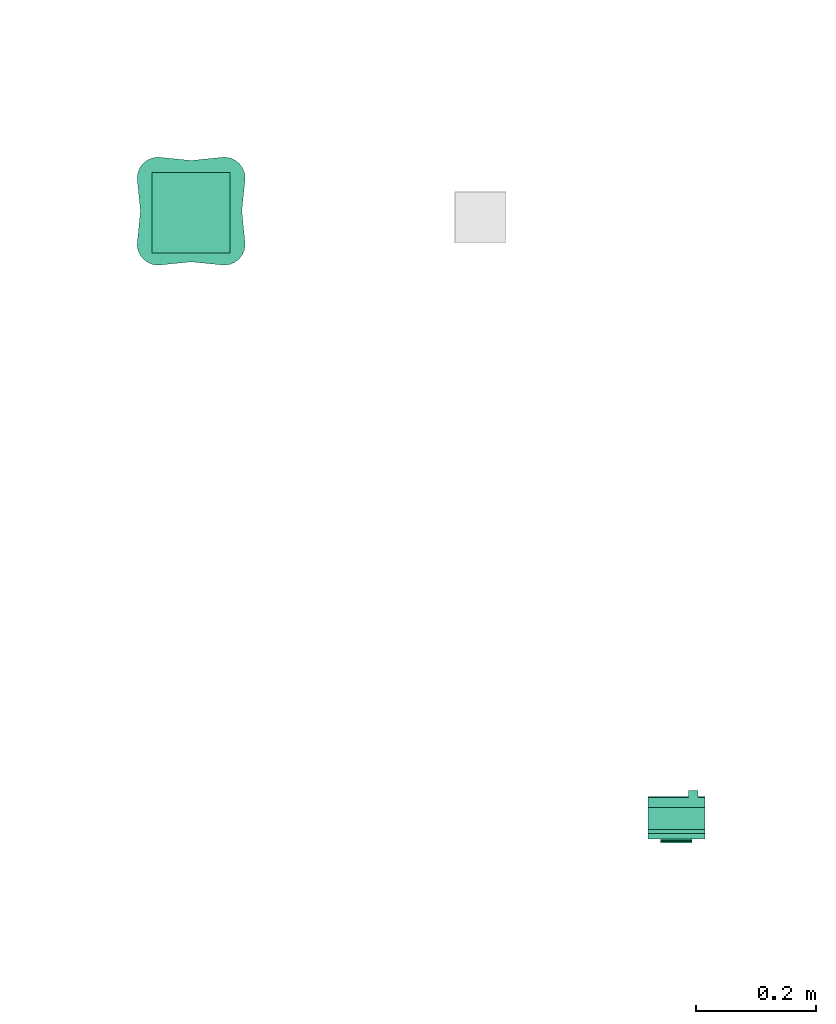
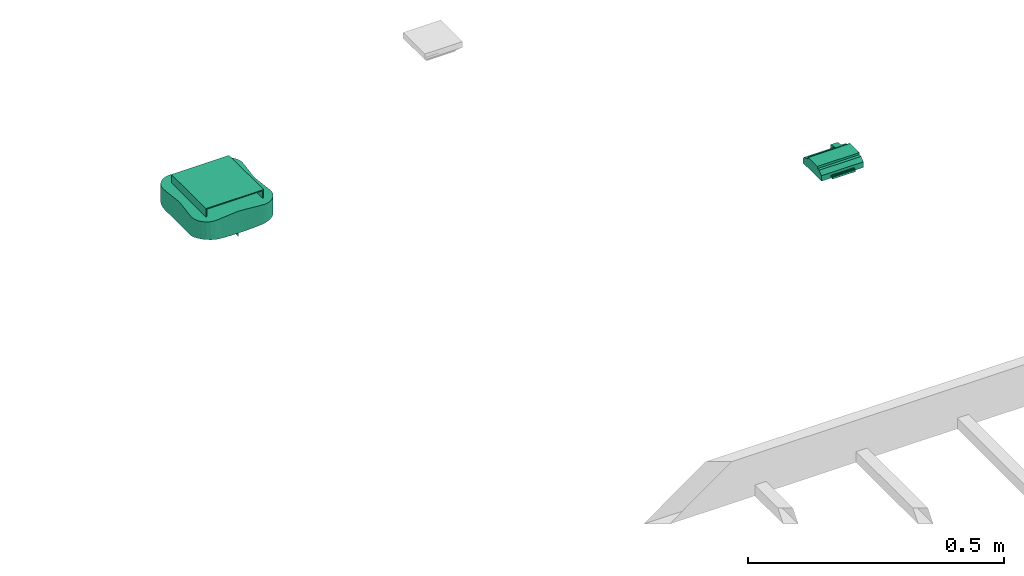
# One storey, part 23 of 24: 1 distribution control element, 1 flow terminal.
"""IFC2X3 building model written with IfcOpenShell, lengths in millimetres."""

from ifc_helpers import new_model, entity, si_unit, converted_unit, derived_unit, direction, frame, origin_with_axes, place, context, subcontext, project, spatial, open_shell, surface_model, source, transform, mapped, type_object, element, save


model = new_model("IFC2X3")

# Units and contexts
model_context = context("Model", 3, precision=0.01, world=frame((0.0, 4.29681676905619e-09, 0.0)), true_north=direction((4.01073788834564e-13, 1.0)))
plan_context = context("Plan", 3, precision=0.01, world=frame((0.0, 4.29681676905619e-09, 0.0)), true_north=direction((4.01073788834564e-13, 1.0)))
body_context = subcontext(model_context, "Body", "Model", "MODEL_VIEW")
ifc_project = project(units=[converted_unit("PLANEANGLEUNIT", "DEGREE", entity("IfcPositiveLengthMeasure", 0.0174532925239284), si_unit("PLANEANGLEUNIT", "RADIAN"), dimensions=[0, 0, 0, 0, 0, 0, 0]), si_unit("AREAUNIT", "SQUARE_METRE"), si_unit("LENGTHUNIT", "METRE", prefix="MILLI"), si_unit("MASSUNIT", "GRAM", prefix="KILO"), si_unit("POWERUNIT", "WATT"), si_unit("PRESSUREUNIT", "PASCAL"), si_unit("FORCEUNIT", "NEWTON", prefix="KILO"), si_unit("ELECTRICVOLTAGEUNIT", "VOLT"), si_unit("ELECTRICCURRENTUNIT", "AMPERE"), si_unit("THERMODYNAMICTEMPERATUREUNIT", "DEGREE_CELSIUS"), si_unit("TIMEUNIT", "SECOND"), si_unit("VOLUMEUNIT", "CUBIC_METRE"), derived_unit("LINEARVELOCITYUNIT", [(si_unit("LENGTHUNIT", "METRE"), 1), (si_unit("TIMEUNIT", "SECOND"), -1)]), derived_unit("VOLUMETRICFLOWRATEUNIT", [(si_unit("VOLUMEUNIT", "CUBIC_METRE"), 1), (si_unit("TIMEUNIT", "SECOND"), -1)]), derived_unit("THERMALTRANSMITTANCEUNIT", [(si_unit("POWERUNIT", "WATT"), 1), (si_unit("THERMODYNAMICTEMPERATUREUNIT", "KELVIN"), -1), (si_unit("AREAUNIT", "SQUARE_METRE"), -1)]), derived_unit("SOUNDPRESSUREUNIT", [(si_unit("PRESSUREUNIT", "PASCAL"), 1)])], contexts=[model_context, plan_context])

# Site, building, storey
site_placement = place(None, frame((0.0, -4.29681676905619e-09, 0.0), z_axis=(0.0, 0.0, 1.0), x_axis=(1.0, 0.0, 0.0)))
site = spatial("IfcSite", under=ifc_project, at=site_placement, Name="ENGM", CompositionType="ELEMENT")
building_placement = place(site_placement, frame((0.0, 4.29681676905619e-09, 0.0), z_axis=(0.0, 0.0, 1.0), x_axis=(1.0, 0.0, 0.0)))
building = spatial("IfcBuilding", under=site, at=building_placement, Name="TH", CompositionType="ELEMENT")
storey_placement = place(building_placement, frame((0.0, 0.0, 210200.0), z_axis=(0.0, 0.0, 1.0), x_axis=(1.0, 0.0, 0.0)))
storey = spatial("IfcBuildingStorey", under=building, at=storey_placement, Name="Nivå F - 0,7 m", CompositionType="ELEMENT", Elevation=210200.0)

# Distribution control element
alarm_type = type_object("IfcAlarmType", Name="BUS Binærutgang 4-kanals", PredefinedType="NOTDEFINED")
shared_shape_1 = source(origin_with_axes(), body_context, "Body", "SurfaceModel", [
    surface_model("IfcShellBasedSurfaceModel", [(-20.08735, -24.86484, 47.89005), (-20.08735, -24.86484, 35.22092), (-20.08735, -4.86484, 35.22092), (-20.08735, -4.86484, 51.77765), (-35.68684, -4.86484, 51.77765), (-35.68684, -4.86484, 35.22092), (-35.68684, -24.86484, 47.89005), (-35.68684, -24.86484, 35.22092), (26.37204, 55.71825, 33.88462), (26.37204, 62.14116, 33.88462), (26.37204, 60.08261, 38.88462), (26.37204, 62.14116, 38.88462), (26.37204, 58.20707, 39.7592), (26.37204, 55.71825, 39.7592), (-25.8633, 55.71825, 33.88462), (-25.8633, 55.71825, 39.7592), (-25.8633, 58.20707, 39.7592), (-25.8633, 60.08261, 38.88462), (-25.8633, 62.14116, 33.88462), (-25.8633, 62.14116, 38.88462), (47.54214, -15.24, 45.29966), (47.54214, -15.24, 32.67625), (47.54214, -13.27537, 48.10544), (47.54214, 3.04066, 54.04399), (47.54214, 3.04066, 58.59394), (47.54214, 40.13549, 58.59394), (47.54214, 55.71825, 32.67625), (47.54214, 55.71825, 45.82808), (47.54214, 40.13549, 53.59394), (47.54214, 46.78465, 53.59394), (-47.35135, 55.71825, 45.82808), (-47.35135, 55.71825, 32.67625), (-47.35135, 40.13549, 53.59394), (-47.35135, 46.78465, 53.59394), (-47.35135, 40.13549, 58.59394), (-47.35135, 3.04066, 54.04399), (-47.35135, -15.24, 32.67625), (-47.35135, -15.24, 45.29966), (-47.35135, -13.27537, 48.10544), (-47.35135, 3.04066, 58.59394), (46.8282, 39.36245, 58.59394), (46.8282, 3.72477, 58.59394), (-46.7165, 39.36245, 58.59394), (-46.7165, 3.72477, 58.59394), (46.8282, 3.72477, 58.0), (46.8282, 39.36245, 58.0), (-46.7165, 39.36245, 58.0), (-46.7165, 3.72477, 58.0), (46.8282, 3.72477, 55.78954), (-46.7165, 3.72477, 55.78954), (-46.7165, 39.36245, 55.78954), (46.8282, 39.36245, 55.78954)], [open_shell([[[0, 1, 2]], [[2, 3, 0]], [[4, 5, 6]], [[7, 6, 5]], [[2, 1, 5]], [[7, 5, 1]], [[3, 2, 5]], [[5, 4, 3]], [[0, 3, 4]], [[4, 6, 0]], [[1, 0, 7]], [[6, 7, 0]], [[8, 9, 10]], [[10, 9, 11]], [[8, 10, 12]], [[12, 13, 8]], [[14, 15, 16]], [[17, 18, 14]], [[18, 17, 19]], [[17, 14, 16]], [[11, 9, 19]], [[18, 19, 9]], [[10, 11, 19]], [[19, 17, 10]], [[12, 10, 16]], [[17, 16, 10]], [[13, 12, 16]], [[16, 15, 13]], [[8, 13, 15]], [[15, 14, 8]], [[9, 8, 18]], [[14, 18, 8]], [[20, 21, 22]], [[23, 22, 21]], [[24, 23, 25]], [[21, 26, 23]], [[26, 27, 28]], [[29, 28, 27]], [[28, 25, 23]], [[26, 28, 23]], [[30, 31, 32]], [[32, 33, 30]], [[34, 32, 35]], [[31, 35, 32]], [[36, 37, 38]], [[38, 35, 36]], [[35, 39, 34]], [[36, 35, 31]], [[26, 21, 36]], [[36, 31, 26]], [[27, 26, 30]], [[31, 30, 26]], [[29, 27, 33]], [[30, 33, 27]], [[28, 29, 32]], [[33, 32, 29]], [[25, 28, 34]], [[32, 34, 28]], [[25, 40, 24]], [[40, 25, 34]], [[24, 41, 39]], [[41, 24, 40]], [[42, 34, 39]], [[34, 42, 40]], [[43, 39, 41]], [[39, 43, 42]], [[23, 24, 35]], [[39, 35, 24]], [[22, 23, 38]], [[35, 38, 23]], [[20, 22, 37]], [[38, 37, 22]], [[21, 20, 36]], [[37, 36, 20]], [[44, 45, 46]], [[46, 47, 44]], [[40, 45, 44]], [[44, 41, 40]], [[41, 44, 47]], [[47, 43, 41]], [[43, 47, 46]], [[46, 42, 43]], [[42, 46, 45]], [[45, 40, 42]], [[48, 49, 50]], [[50, 51, 48]], [[45, 46, 47]], [[47, 44, 45]], [[47, 46, 50]], [[50, 49, 47]], [[44, 47, 49]], [[49, 48, 44]], [[45, 44, 48]], [[48, 51, 45]], [[46, 45, 51]], [[51, 50, 46]]])]),
])
distribution_control_element_placement = place(storey_placement, frame((910180.0, 484342.69464, 3035.0), z_axis=(0.0, 0.0, 1.0), x_axis=(-1.0, 0.0, 0.0)))
element("IfcDistributionControlElement", 1, at=distribution_control_element_placement, inside=storey, type_object=alarm_type, Name="BUS Binærutgang 4-kanals", context=body_context, shape_type="MappedRepresentation", body=[
    mapped(shared_shape_1, transform((0.0, 0.0, 0.0), scale=1.0)),
])

# Flow terminal
outlet_type = type_object("IfcOutletType", Name="AP832 Himling", PredefinedType="COMMUNICATIONSOUTLET")
shared_shape_2 = source(origin_with_axes(), body_context, "Body", "SurfaceModel", [
    surface_model("IfcShellBasedSurfaceModel", [(-65.24, 64.6064, 0.01273), (-62.91048, 64.6064, -2.16871), (-65.24, 64.6064, -19.98727), (65.24, 64.6064, 0.01273), (-62.91048, 64.6064, -19.98727), (62.91048, 64.6064, -2.16871), (65.24, 64.6064, -19.98727), (62.91048, 64.6064, -19.98727), (65.24, -70.1536, 0.01273), (62.91048, -70.1536, -2.16871), (65.24, -70.1536, -19.98727), (-65.24, -70.1536, 0.01273), (62.91048, -70.1536, -19.98727), (-62.91048, -70.1536, -2.16871), (-65.24, -70.1536, -19.98727), (-62.91048, -70.1536, -19.98727), (-64.8987, 88.35249, -19.98727), (-72.78369, 84.87696, -19.98727), (-84.87725, 72.78339, -19.98727), (-56.40353, 89.79619, -19.98727), (-88.35279, 64.89841, -19.98727), (-47.81308, 89.12053, -19.98727), (-89.79648, 56.40323, -19.98727), (-79.58053, 79.58024, -19.98727), (-89.12082, 47.81278, -19.98727), (0.16821, 84.26021, -19.98727), (-84.2605, -0.1685, -19.98727), (89.45724, 47.81278, -19.98727), (56.73994, 89.79619, -19.98727), (48.14949, 89.12053, -19.98727), (65.23512, 88.35249, -19.98727), (88.6892, 64.89841, -19.98727), (73.1201, 84.87696, -19.98727), (90.1329, 56.40323, -19.98727), (84.59692, -0.1685, -19.98727), (79.91694, 79.58024, -19.98727), (85.21367, 72.78339, -19.98727), (0.16821, -84.59721, -19.98727), (-47.81308, -89.45753, -19.98727), (-89.12082, -48.14979, -19.98727), (-89.79648, -56.74024, -19.98727), (-64.8987, -88.6895, -19.98727), (-88.35279, -65.23541, -19.98727), (-84.87725, -73.1204, -19.98727), (-56.40353, -90.13319, -19.98727), (-79.58053, -79.91724, -19.98727), (-72.78369, -85.21396, -19.98727), (90.1329, -56.74024, -19.98727), (89.45724, -48.14979, -19.98727), (56.73994, -90.13319, -19.98727), (48.14949, -89.45753, -19.98727), (65.23512, -88.6895, -19.98727), (88.6892, -65.23541, -19.98727), (73.1201, -85.21396, -19.98727), (85.21367, -73.1204, -19.98727), (79.91694, -79.91724, -19.98727), (-0.00318, -84.59727, -80.35551), (-0.08388, -84.59734, -80.35551), (0.0, -0.1685, -80.35551), (0.07752, -84.59723, -80.35551), (89.45724, 47.81278, -66.77911), (90.13825, 56.27931, -64.75537), (88.73445, 64.74651, -63.14583), (85.26688, 72.69402, -62.10579), (79.91293, 79.58425, -61.74845), (73.02197, 84.93537, -62.1154), (65.07576, 88.39995, -63.16375), (56.60979, 89.8018, -64.77979), (48.14949, 89.12053, -66.80655), (29.24729, 86.03384, -70.60827), (9.87236, 84.45708, -72.42488), (-28.8488, 86.02624, -70.65263), (-9.58279, 84.45899, -72.43401), (-47.81308, 89.12053, -66.87022), (-56.28074, 89.8015, -64.85583), (-64.7482, 88.39733, -63.2539), (-72.69516, 84.92967, -62.2189), (-79.58453, 79.57624, -61.86333), (-84.93515, 72.68613, -62.2285), (-88.39983, 64.74045, -63.27179), (-89.80205, 56.27419, -64.88021), (-89.12082, 47.81278, -66.89761), (-86.03369, 28.90704, -70.67909), (-84.4572, 9.53124, -72.4796), (-86.02666, -29.18657, -70.68733), (-84.4594, -9.92229, -72.47716), (-89.12082, -48.14979, -66.89761), (-89.80183, -56.61645, -64.87908), (-88.39824, -65.08282, -63.27091), (-84.93157, -73.02916, -62.22792), (-79.57901, -79.91876, -61.86333), (-72.6891, -85.27028, -62.21948), (-64.74278, -88.73593, -63.25478), (-56.27543, -90.13871, -64.85697), (-47.81308, -89.45753, -66.87022), (-32.12319, -86.78625, -70.15504), (-16.14523, -85.154, -72.03673), (-0.08388, -84.59734, -72.64885), (0.07752, -84.59723, -72.64888), (32.35132, -86.77152, -70.13271), (48.14949, -89.45753, -66.80655), (16.25491, -85.13861, -72.0351), (56.61502, -90.13858, -64.77866), (65.08112, -88.73536, -63.16288), (73.02801, -85.26879, -62.11482), (79.91847, -79.91572, -61.74844), (85.27049, -73.02495, -62.10637), (88.73604, -65.0781, -63.14671), (90.13847, -56.61104, -64.75651), (89.45724, -48.14979, -66.77911), (86.36341, -29.18924, -70.58177), (84.79585, -9.92329, -72.37919), (86.3703, 28.90862, -70.57366), (84.79366, 9.5325, -72.38164), (0.0, -0.1685, -79.65251), (0.03421, -37.42702, -79.65251), (0.05614, -61.31156, -77.7142), (-0.03702, -37.42702, -79.65251), (-0.06075, -61.31162, -77.71419), (60.48328, -69.41089, -70.30494), (60.41945, -16.99212, -77.47261), (33.90039, -15.62692, -79.65251), (35.38879, -5.23917, -79.65251), (0.12103, 63.21986, -77.36542), (17.27742, 62.37601, -77.11641), (10.49518, 35.58132, -79.65251), (35.7478, 60.00919, -76.16923), (0.00135, 35.58172, -79.65251), (12.9763, -60.85552, -77.57547), (-60.23567, -16.9674, -77.50153), (55.22438, 51.62834, -74.92543), (-36.1991, 64.05091, -75.38151), (-19.32167, 29.91058, -79.65251), (-51.21509, 54.32851, -75.14065), (-10.49249, 35.58211, -79.65251), (-16.97714, 62.37042, -77.13084), (60.47619, 16.66282, -77.46365), (64.57096, 36.3065, -75.28259), (61.74514, -36.06012, -75.87774), (38.42626, -64.86984, -75.03326), (20.16681, -31.49738, -79.65251), (50.76099, -51.45948, -75.72076), (-21.78074, -63.76648, -76.70196), (-37.78016, -62.94505, -75.48127), (-50.90621, -50.55051, -75.83509), (-20.16917, -31.49585, -79.65251), (32.51494, 14.69275, -79.65251), (-8.60551, -34.90265, -79.65251), (14.38485, -33.20034, -79.65251), (8.60289, -34.9033, -79.65251), (27.0336, -23.56215, -79.65251), (-60.29875, 16.63942, -77.49161), (-32.51382, 14.6952, -79.65251), (-36.87679, 5.15135, -79.65251), (60.51238, -0.19139, -77.80693), (-68.95854, -60.393, -70.43361), (-62.3078, -36.15955, -75.76477), (36.87719, 5.14858, -79.65251), (19.32393, 29.90913, -79.65251), (28.15268, 24.23693, -79.65251), (-33.90155, -15.62436, -79.65251), (-35.38917, -5.2365, -79.65251), (-59.29485, 35.20056, -76.35745), (-28.15084, 24.23905, -79.65251), (-60.35053, -0.19148, -77.83037), (-27.03536, -23.56011, -79.65251)], [open_shell([[[0, 1, 2]], [[1, 0, 3]], [[4, 2, 1]], [[5, 3, 6]], [[3, 5, 1]], [[6, 7, 5]], [[8, 9, 10]], [[9, 8, 11]], [[12, 10, 9]], [[13, 11, 14]], [[11, 13, 9]], [[14, 15, 13]], [[3, 0, 11]], [[11, 8, 3]], [[6, 3, 8]], [[8, 10, 6]], [[7, 6, 10]], [[10, 12, 7]], [[5, 7, 12]], [[12, 9, 5]], [[1, 5, 13]], [[9, 13, 5]], [[4, 1, 13]], [[13, 15, 4]], [[2, 4, 15]], [[15, 14, 2]], [[0, 2, 11]], [[14, 11, 2]], [[16, 17, 18]], [[19, 16, 20]], [[21, 19, 22]], [[23, 18, 17]], [[24, 21, 22]], [[22, 19, 20]], [[21, 24, 25]], [[18, 20, 16]], [[25, 24, 26]], [[27, 28, 29]], [[30, 31, 32]], [[28, 33, 30]], [[27, 29, 34]], [[35, 32, 36]], [[31, 36, 32]], [[30, 33, 31]], [[28, 27, 33]], [[34, 29, 25]], [[25, 26, 37]], [[38, 39, 40]], [[41, 42, 43]], [[40, 42, 44]], [[43, 45, 46]], [[41, 44, 42]], [[38, 37, 39]], [[40, 44, 38]], [[46, 41, 43]], [[37, 34, 25]], [[47, 48, 49]], [[50, 48, 34]], [[47, 51, 52]], [[52, 53, 54]], [[51, 47, 49]], [[54, 53, 55]], [[52, 51, 53]], [[49, 48, 50]], [[34, 37, 50]], [[37, 26, 39]], [[56, 57, 58]], [[58, 59, 56]], [[60, 61, 27]], [[62, 63, 31]], [[61, 62, 33]], [[33, 27, 61]], [[62, 31, 33]], [[63, 36, 31]], [[36, 64, 35]], [[36, 63, 64]], [[65, 66, 30]], [[67, 68, 29]], [[66, 67, 28]], [[64, 32, 35]], [[64, 65, 32]], [[30, 32, 65]], [[66, 28, 30]], [[67, 29, 28]], [[69, 29, 68]], [[69, 70, 25]], [[25, 29, 69]], [[71, 21, 25]], [[72, 71, 25]], [[73, 21, 71]], [[70, 72, 25]], [[73, 74, 21]], [[75, 76, 16]], [[74, 75, 19]], [[19, 21, 74]], [[76, 17, 16]], [[23, 17, 77]], [[19, 75, 16]], [[17, 76, 77]], [[78, 79, 20]], [[80, 81, 24]], [[79, 80, 22]], [[77, 18, 23]], [[77, 78, 18]], [[20, 18, 78]], [[79, 22, 20]], [[80, 24, 22]], [[82, 24, 81]], [[82, 83, 26]], [[26, 24, 82]], [[84, 39, 26]], [[85, 84, 26]], [[86, 39, 84]], [[83, 85, 26]], [[86, 87, 39]], [[88, 89, 42]], [[87, 88, 40]], [[40, 39, 87]], [[88, 42, 40]], [[89, 43, 42]], [[43, 90, 45]], [[43, 89, 90]], [[91, 92, 41]], [[93, 94, 38]], [[92, 93, 44]], [[90, 46, 45]], [[90, 91, 46]], [[41, 46, 91]], [[92, 44, 41]], [[93, 38, 44]], [[94, 95, 38]], [[37, 95, 96]], [[57, 56, 97]], [[98, 97, 56]], [[37, 96, 97]], [[38, 95, 37]], [[50, 37, 99]], [[100, 50, 99]], [[56, 59, 98]], [[37, 98, 101]], [[101, 99, 37]], [[97, 98, 37]], [[100, 102, 50]], [[103, 104, 51]], [[102, 103, 49]], [[49, 50, 102]], [[53, 51, 104]], [[105, 55, 53]], [[49, 103, 51]], [[53, 104, 105]], [[106, 107, 52]], [[108, 109, 48]], [[107, 108, 47]], [[105, 54, 55]], [[105, 106, 54]], [[52, 54, 106]], [[107, 47, 52]], [[108, 48, 47]], [[110, 48, 109]], [[110, 111, 34]], [[34, 48, 110]], [[112, 27, 34]], [[113, 112, 34]], [[60, 27, 112]], [[111, 113, 34]], [[114, 115, 58]], [[59, 58, 115]], [[98, 59, 116]], [[115, 116, 59]], [[58, 117, 114]], [[117, 58, 57]], [[118, 57, 97]], [[57, 118, 117]], [[105, 119, 106]], [[106, 119, 107]], [[120, 121, 122]], [[123, 70, 124]], [[103, 119, 104]], [[119, 102, 100]], [[125, 124, 126]], [[103, 102, 119]], [[107, 119, 108]], [[127, 123, 124]], [[98, 116, 128]], [[84, 85, 129]], [[130, 63, 62]], [[131, 132, 133]], [[63, 130, 64]], [[134, 135, 127]], [[136, 137, 112]], [[137, 60, 112]], [[109, 138, 110]], [[139, 140, 141]], [[66, 130, 67]], [[120, 110, 138]], [[142, 96, 95]], [[61, 137, 130]], [[61, 130, 62]], [[69, 126, 124]], [[72, 123, 135]], [[143, 144, 145]], [[128, 101, 98]], [[137, 136, 146]], [[100, 139, 119]], [[141, 138, 108]], [[121, 120, 138]], [[139, 141, 119]], [[147, 117, 118]], [[99, 101, 128]], [[96, 142, 118]], [[148, 128, 149]], [[138, 150, 121]], [[151, 152, 153]], [[120, 154, 111]], [[76, 133, 77]], [[155, 156, 144]], [[137, 61, 60]], [[109, 108, 138]], [[89, 155, 90]], [[126, 68, 67]], [[122, 154, 120]], [[154, 157, 136]], [[158, 130, 159]], [[136, 112, 113]], [[135, 123, 127]], [[131, 135, 132]], [[69, 124, 70]], [[69, 68, 126]], [[130, 65, 64]], [[113, 111, 154]], [[126, 158, 125]], [[141, 150, 138]], [[130, 126, 67]], [[76, 75, 133]], [[160, 156, 129]], [[77, 133, 78]], [[82, 151, 83]], [[129, 161, 160]], [[78, 133, 79]], [[131, 133, 74]], [[139, 100, 99]], [[80, 79, 133]], [[126, 130, 158]], [[133, 75, 74]], [[81, 80, 162]], [[136, 157, 146]], [[162, 133, 163]], [[91, 155, 92]], [[71, 135, 131]], [[92, 155, 93]], [[99, 128, 139]], [[139, 148, 140]], [[91, 90, 155]], [[155, 88, 87]], [[83, 151, 164]], [[143, 94, 93]], [[93, 155, 143]], [[152, 151, 162]], [[89, 88, 155]], [[165, 145, 144]], [[95, 143, 142]], [[164, 153, 161]], [[110, 120, 111]], [[153, 164, 151]], [[163, 133, 132]], [[71, 72, 135]], [[65, 130, 66]], [[71, 131, 73]], [[144, 156, 165]], [[82, 81, 162]], [[133, 162, 80]], [[116, 115, 128]], [[74, 73, 131]], [[85, 164, 129]], [[84, 129, 156]], [[82, 162, 151]], [[128, 148, 139]], [[104, 119, 105]], [[123, 72, 70]], [[129, 164, 161]], [[86, 155, 87]], [[84, 156, 86]], [[147, 142, 145]], [[119, 141, 108]], [[118, 142, 147]], [[146, 159, 137]], [[155, 86, 156]], [[154, 122, 157]], [[144, 143, 155]], [[165, 156, 160]], [[142, 143, 145]], [[96, 118, 97]], [[113, 154, 136]], [[163, 152, 162]], [[164, 85, 83]], [[95, 94, 143]], [[137, 159, 130]], [[149, 128, 115]], [[125, 127, 124]], [[132, 135, 134]], [[150, 141, 140]], [[163, 134, 114]], [[114, 134, 125]], [[157, 114, 159]], [[159, 114, 125]], [[163, 114, 153]], [[145, 160, 114]], [[117, 145, 114]], [[157, 121, 114]], [[140, 114, 121]], [[114, 140, 115]], [[153, 114, 160]]])]),
])
flow_terminal_placement = place(storey_placement, frame((909371.3336, 485332.86334, 2700.0), z_axis=(0.0, 0.0, 1.0), x_axis=(1.0, 0.0, 0.0)))
element("IfcFlowTerminal", 2, at=flow_terminal_placement, inside=storey, type_object=outlet_type, Name="AP832 Himling", context=body_context, shape_type="MappedRepresentation", body=[
    mapped(shared_shape_2, transform((0.0, 0.0, 0.0), scale=1.0)),
])

save(model, "model.ifc")
